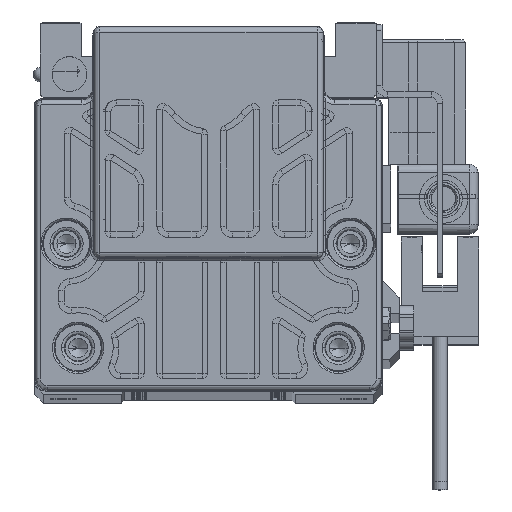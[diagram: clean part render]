
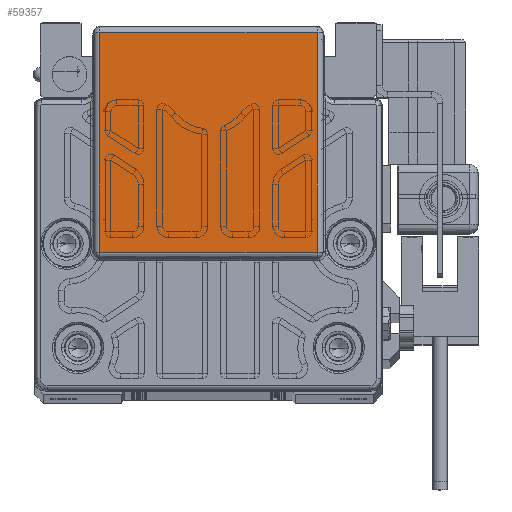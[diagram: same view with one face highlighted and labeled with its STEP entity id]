
A CAD part, top view. The second image highlights one B-rep face of the part: STEP entity #59357.
In plain terms, the highlighted planar face has unit normal (0, 0, 1) as drawn and (0, 0, -1) by its records, which use the part's own axes.
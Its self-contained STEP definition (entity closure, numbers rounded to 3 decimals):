
#74 = ORIENTED_EDGE ( 'NONE', *, *, #67467, .F. ) ;
#326 = EDGE_CURVE ( 'NONE', #31535, #32296, #6242, .T. ) ;
#1515 = CARTESIAN_POINT ( 'NONE',  ( -18.808, 62.447, -143. ) ) ;
#6242 = LINE ( 'NONE', #64274, #7133 ) ;
#7133 = VECTOR ( 'NONE', #76353, 1000. ) ;
#7138 = CARTESIAN_POINT ( 'NONE',  ( 18.808, 24.5, -143. ) ) ;
#7627 = VECTOR ( 'NONE', #72561, 1000. ) ;
#8039 = AXIS2_PLACEMENT_3D ( 'NONE', #17138, #75950, #22977 ) ;
#8119 = ORIENTED_EDGE ( 'NONE', *, *, #73519, .F. ) ;
#10402 = LINE ( 'NONE', #15843, #74853 ) ;
#12463 = VECTOR ( 'NONE', #50554, 1000. ) ;
#15843 = CARTESIAN_POINT ( 'NONE',  ( 19., 24.518, -143. ) ) ;
#17138 = CARTESIAN_POINT ( 'NONE',  ( 19., 24.5, -143. ) ) ;
#18809 = VERTEX_POINT ( 'NONE', #24543 ) ;
#22977 = DIRECTION ( 'NONE',  ( 0., 1., 0. ) ) ;
#23127 = CARTESIAN_POINT ( 'NONE',  ( 18.808, 24.518, -143. ) ) ;
#24543 = CARTESIAN_POINT ( 'NONE',  ( -18.808, 24.518, -143. ) ) ;
#31535 = VERTEX_POINT ( 'NONE', #1515 ) ;
#32296 = VERTEX_POINT ( 'NONE', #40123 ) ;
#35058 = FACE_OUTER_BOUND ( 'NONE', #73827, .T. ) ;
#39617 = DIRECTION ( 'NONE',  ( 1., 0., 0. ) ) ;
#40123 = CARTESIAN_POINT ( 'NONE',  ( 18.808, 62.447, -143. ) ) ;
#45078 = ORIENTED_EDGE ( 'NONE', *, *, #50576, .F. ) ;
#50401 = VERTEX_POINT ( 'NONE', #23127 ) ;
#50554 = DIRECTION ( 'NONE',  ( 0., -1., 0. ) ) ;
#50576 = EDGE_CURVE ( 'NONE', #50401, #32296, #60482, .T. ) ;
#55701 = ORIENTED_EDGE ( 'NONE', *, *, #326, .T. ) ;
#56394 = LINE ( 'NONE', #56770, #12463 ) ;
#56770 = CARTESIAN_POINT ( 'NONE',  ( -18.808, 31., -143. ) ) ;
#59357 = ADVANCED_FACE ( 'NONE', ( #35058 ), #75569, .T. ) ;
#60482 = LINE ( 'NONE', #7138, #7627 ) ;
#64274 = CARTESIAN_POINT ( 'NONE',  ( 19., 62.447, -143. ) ) ;
#67467 = EDGE_CURVE ( 'NONE', #31535, #18809, #56394, .T. ) ;
#72561 = DIRECTION ( 'NONE',  ( 0., 1., 0. ) ) ;
#73519 = EDGE_CURVE ( 'NONE', #18809, #50401, #10402, .T. ) ;
#73827 = EDGE_LOOP ( 'NONE', ( #45078, #8119, #74, #55701 ) ) ;
#74853 = VECTOR ( 'NONE', #39617, 1000. ) ;
#75569 = PLANE ( 'NONE',  #8039 ) ;
#75950 = DIRECTION ( 'NONE',  ( 0., 0., -1. ) ) ;
#76353 = DIRECTION ( 'NONE',  ( 1., 0., 0. ) ) ;
